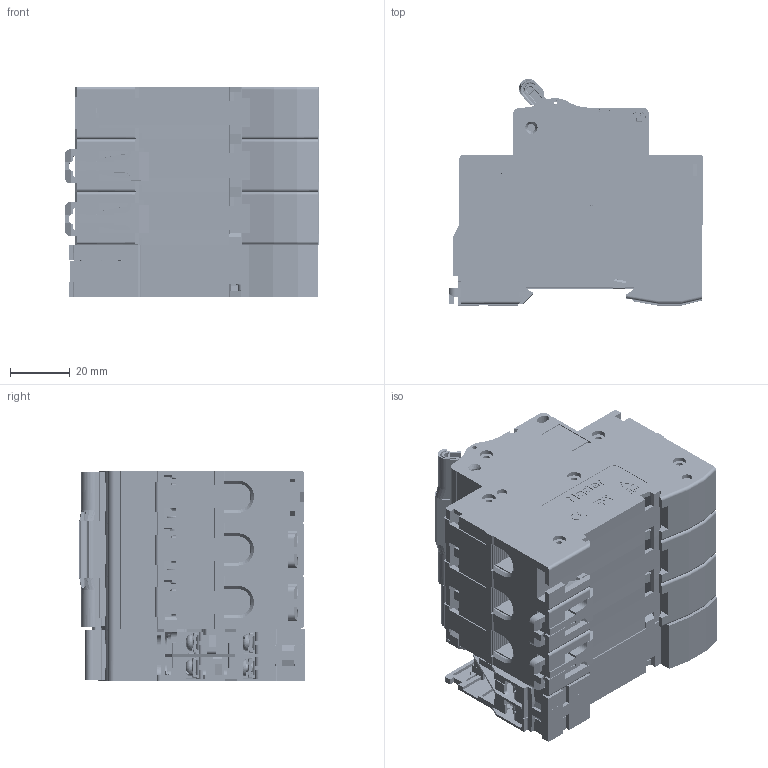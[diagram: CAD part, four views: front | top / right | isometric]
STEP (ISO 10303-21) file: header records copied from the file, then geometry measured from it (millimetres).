
FILE_DESCRIPTION (( 'STEP AP214' ), '1' );
FILE_NAME ('NDB2-63 3P+MX+OF2.STEP', '2022-09-16T09:58:20', ( '' ), ( '' ), 'SwSTEP 2.0', 'SolidWorks 2018', '' );
FILE_SCHEMA (( 'AUTOMOTIVE_DESIGN' ));
Length unit declared in the file: millimetre
Products named in the file (34): 8LD.516.163; 8LD.516.164; 8LD.885.113.STEP; NDB2-63 3P+MX+OF2; 8LD.253.172; 8LD.574.106.STEP; 8LD.774.101.STEP; 8LD.234.105.STEP; MX+OF2 耀倰芞  8.16.STEP; 1p; 8LD.574.105.STEP; 8LD.907.104.STEP; 8LD.371.103.STEP; 8LD.574.104.STEP; 8LD.516.147.STEP; 8LD.315.141; 5LD.520.1095.STEP; 8LD.143.115; 5LD.574.103; MX+OF2 耀倰芞  8.16; 8LD.253.129; 8LD.024.137; 8LD.315.140; 8LD.907.115; 8LD.233.155.STEP; 8LD.253.1257.STEP; 8LD.732.126.STEP; 8LD.024.193.STEP; 8LD.257.118.STEP; 8LD.315.168.STEP; 8LD.039.100; 8LD.516.135; 8LD.522.1076.STEP
Assembly tree (54 placements, depth 5):
  NDB2-63 3P+MX+OF2
    1p
      8LD.024.137
      8LD.253.129
      5LD.574.103  x2
        8LD.516.135
        8LD.907.115
      8LD.315.140
      8LD.315.141  x2
      8LD.516.163
      8LD.516.164
      8LD.039.100
    1p  x2
      8LD.024.137
      8LD.253.129
      5LD.574.103
        8LD.516.135
        8LD.907.115
      8LD.143.115
      8LD.315.140
      8LD.315.141
      8LD.516.163
      8LD.516.164
      8LD.039.100
    8LD.253.172
    MX+OF2 耀倰芞  8.16
      MX+OF2 耀倰芞  8.16.STEP
        5LD.520.1095.STEP
          8LD.522.1076.STEP
          8LD.516.147.STEP  x2
          8LD.732.126.STEP
        8LD.257.118.STEP
        8LD.233.155.STEP
        8LD.907.104.STEP  x4
        8LD.371.103.STEP  x4
        8LD.574.105.STEP
        8LD.574.106.STEP  x2
        8LD.574.104.STEP
        8LD.885.113.STEP
        8LD.234.105.STEP
        8LD.024.193.STEP
        8LD.315.168.STEP
        8LD.253.1257.STEP
        8LD.774.101.STEP
Bounding box: 85.1 x 75.79 x 70.5 mm (x, y, z)
Volume: 260840.9 mm3; surface area: 197277.9 mm2
Topology: 105 solids, 129 shells, 13476 faces, 37760 edges, 24776 vertices
Faces by surface type: plane 8045, cylinder 3781, cone 775, bspline 735, torus 112, sphere 28
Entity records: 214083 total; most frequent: CARTESIAN_POINT 64411, ORIENTED_EDGE 33118, DIRECTION 27329, EDGE_CURVE 16559, VECTOR 11035, LINE 11035, VERTEX_POINT 10912, AXIS2_PLACEMENT_3D 8147
